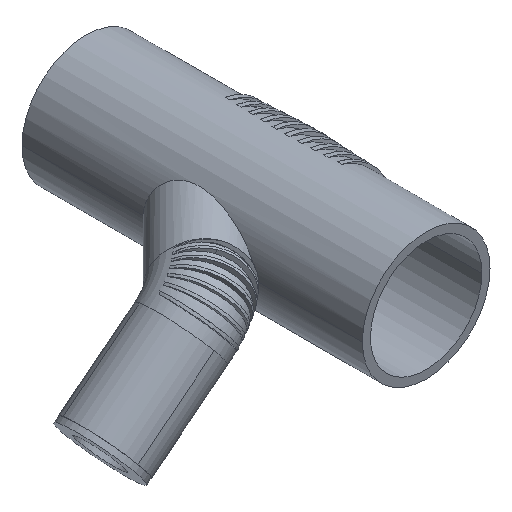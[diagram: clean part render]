
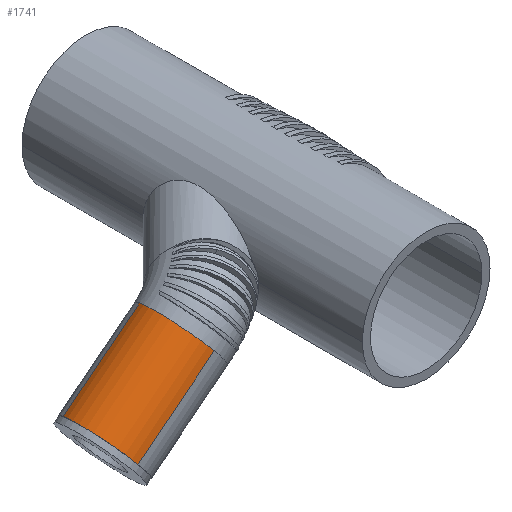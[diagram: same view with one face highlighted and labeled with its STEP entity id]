
A CAD part, isometric view. The second image highlights one B-rep face of the part: STEP entity #1741.
In plain terms, the highlighted cylindrical face has radius 28.125 mm (diameter 56.25 mm), a partial arc.
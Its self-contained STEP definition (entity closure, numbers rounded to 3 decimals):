
#260=FACE_OUTER_BOUND('',#366,.T.);
#366=EDGE_LOOP('',(#1344,#1345,#1346,#1347));
#503=LINE('',#4204,#561);
#505=LINE('',#4212,#563);
#561=VECTOR('',#2340,10.);
#563=VECTOR('',#2348,10.);
#629=CIRCLE('',#1980,28.125);
#630=CIRCLE('',#1981,28.125);
#793=VERTEX_POINT('',#4201);
#794=VERTEX_POINT('',#4203);
#796=VERTEX_POINT('',#4209);
#797=VERTEX_POINT('',#4211);
#1019=EDGE_CURVE('',#794,#793,#503,.T.);
#1022=EDGE_CURVE('',#793,#796,#629,.T.);
#1023=EDGE_CURVE('',#797,#796,#505,.T.);
#1024=EDGE_CURVE('',#794,#797,#630,.T.);
#1344=ORIENTED_EDGE('',*,*,#1022,.T.);
#1345=ORIENTED_EDGE('',*,*,#1023,.F.);
#1346=ORIENTED_EDGE('',*,*,#1024,.F.);
#1347=ORIENTED_EDGE('',*,*,#1019,.T.);
#1586=CYLINDRICAL_SURFACE('',#1979,28.125);
#1741=ADVANCED_FACE('',(#260),#1586,.T.);
#1979=AXIS2_PLACEMENT_3D('',#4208,#2344,#2345);
#1980=AXIS2_PLACEMENT_3D('',#4210,#2346,#2347);
#1981=AXIS2_PLACEMENT_3D('',#4213,#2349,#2350);
#2340=DIRECTION('',(-0.616,0.788,0.003));
#2344=DIRECTION('center_axis',(0.616,-0.788,-0.003));
#2345=DIRECTION('ref_axis',(0.67,0.525,-0.525));
#2346=DIRECTION('center_axis',(0.616,-0.788,-0.003));
#2347=DIRECTION('ref_axis',(0.67,0.525,-0.525));
#2348=DIRECTION('',(-0.616,0.788,0.003));
#2349=DIRECTION('center_axis',(0.616,-0.788,-0.003));
#2350=DIRECTION('ref_axis',(0.67,0.525,-0.525));
#4201=CARTESIAN_POINT('',(-33.757,162.972,66.36));
#4203=CARTESIAN_POINT('',(8.647,108.698,66.166));
#4204=CARTESIAN_POINT('',(8.647,108.698,66.166));
#4208=CARTESIAN_POINT('Origin',(-10.189,93.93,80.935));
#4209=CARTESIAN_POINT('',(-47.469,152.109,108.506));
#4210=CARTESIAN_POINT('Origin',(-52.592,148.204,81.129));
#4211=CARTESIAN_POINT('',(-5.065,97.835,108.312));
#4212=CARTESIAN_POINT('',(-5.065,97.835,108.312));
#4213=CARTESIAN_POINT('Origin',(-10.189,93.93,80.935));
